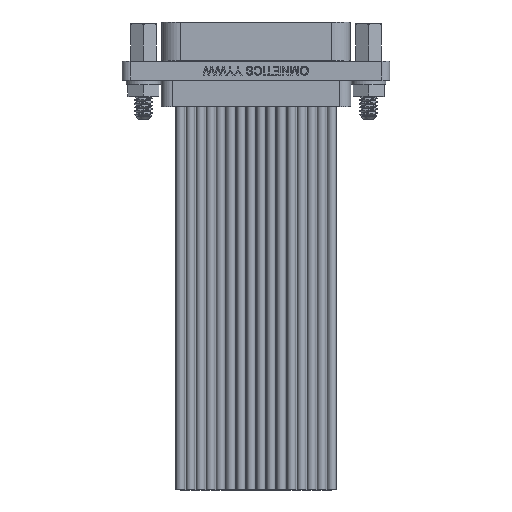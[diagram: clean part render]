
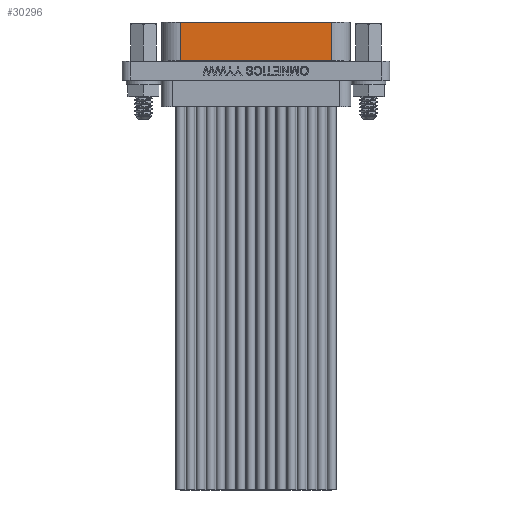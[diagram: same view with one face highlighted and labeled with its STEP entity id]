
A CAD part, front view. The second image highlights one B-rep face of the part: STEP entity #30296.
In plain terms, the highlighted planar face has unit normal (0, -1, 0).
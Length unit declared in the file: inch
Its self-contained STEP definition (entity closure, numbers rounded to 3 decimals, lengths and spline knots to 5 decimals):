
#6016 = EDGE_CURVE ( 'NONE', #37251, #8545, #60837, .T. ) ;
#6094 = VECTOR ( 'NONE', #73222, 39.37008 ) ;
#7390 = CARTESIAN_POINT ( 'NONE',  ( 0.375, -0.1176, 0.235 ) ) ;
#8021 = DIRECTION ( 'NONE',  ( 1., 0., 0. ) ) ;
#8545 = VERTEX_POINT ( 'NONE', #7390 ) ;
#12682 = LINE ( 'NONE', #30952, #25528 ) ;
#14657 = ORIENTED_EDGE ( 'NONE', *, *, #61430, .T. ) ;
#17003 = AXIS2_PLACEMENT_3D ( 'NONE', #68422, #55635, #27256 ) ;
#17384 = EDGE_CURVE ( 'NONE', #8545, #33852, #55786, .T. ) ;
#18695 = VECTOR ( 'NONE', #8021, 39.37008 ) ;
#19242 = CARTESIAN_POINT ( 'NONE',  ( 0.375, -0.1176, 0.045 ) ) ;
#23694 = VERTEX_POINT ( 'NONE', #35490 ) ;
#24972 = DIRECTION ( 'NONE',  ( 1., 0., 0. ) ) ;
#25528 = VECTOR ( 'NONE', #71359, 39.37008 ) ;
#27256 = DIRECTION ( 'NONE',  ( 0., 0., 1. ) ) ;
#30296 = ADVANCED_FACE ( 'NONE', ( #60690 ), #71582, .F. ) ;
#30822 = LINE ( 'NONE', #54522, #55046 ) ;
#30952 = CARTESIAN_POINT ( 'NONE',  ( -0.375, -0.1176, 0.235 ) ) ;
#33852 = VERTEX_POINT ( 'NONE', #19242 ) ;
#35490 = CARTESIAN_POINT ( 'NONE',  ( -0.375, -0.1176, 0.045 ) ) ;
#37251 = VERTEX_POINT ( 'NONE', #56578 ) ;
#47623 = EDGE_CURVE ( 'NONE', #23694, #33852, #30822, .T. ) ;
#48298 = ORIENTED_EDGE ( 'NONE', *, *, #17384, .F. ) ;
#49236 = CARTESIAN_POINT ( 'NONE',  ( -0.6225, -0.1176, 0.235 ) ) ;
#49595 = CARTESIAN_POINT ( 'NONE',  ( 0.375, -0.1176, 0.235 ) ) ;
#54522 = CARTESIAN_POINT ( 'NONE',  ( 0.375, -0.1176, 0.045 ) ) ;
#55046 = VECTOR ( 'NONE', #24972, 39.37008 ) ;
#55635 = DIRECTION ( 'NONE',  ( 0., 1., 0. ) ) ;
#55786 = LINE ( 'NONE', #49595, #6094 ) ;
#56578 = CARTESIAN_POINT ( 'NONE',  ( -0.375, -0.1176, 0.235 ) ) ;
#60690 = FACE_OUTER_BOUND ( 'NONE', #63925, .T. ) ;
#60837 = LINE ( 'NONE', #49236, #18695 ) ;
#61430 = EDGE_CURVE ( 'NONE', #37251, #23694, #12682, .T. ) ;
#63925 = EDGE_LOOP ( 'NONE', ( #14657, #63955, #48298, #65049 ) ) ;
#63955 = ORIENTED_EDGE ( 'NONE', *, *, #47623, .T. ) ;
#65049 = ORIENTED_EDGE ( 'NONE', *, *, #6016, .F. ) ;
#68422 = CARTESIAN_POINT ( 'NONE',  ( -0.6225, -0.1176, 0.235 ) ) ;
#71359 = DIRECTION ( 'NONE',  ( 0., 0., -1. ) ) ;
#71582 = PLANE ( 'NONE',  #17003 ) ;
#73222 = DIRECTION ( 'NONE',  ( 0., 0., -1. ) ) ;
